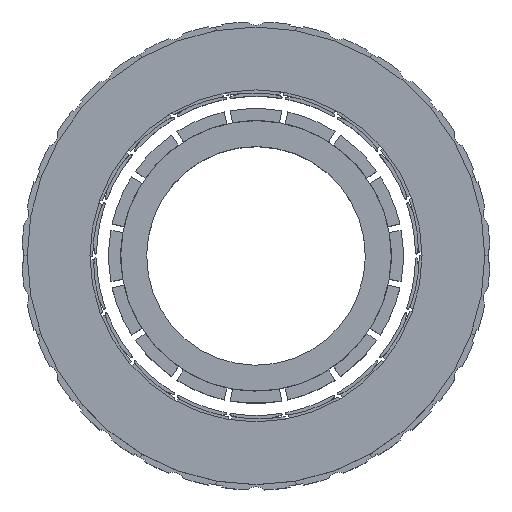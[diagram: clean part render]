
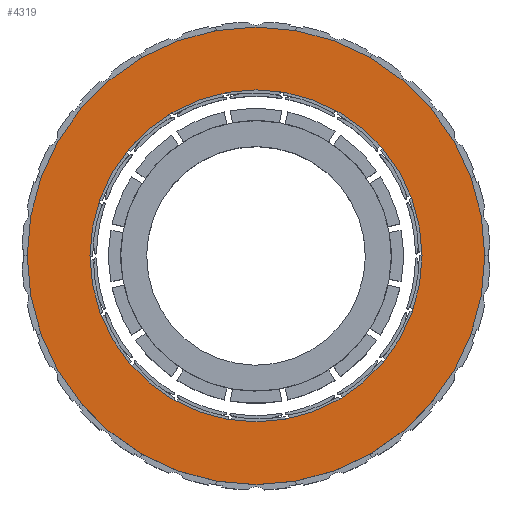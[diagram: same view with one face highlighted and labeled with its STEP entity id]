
A CAD part, top view. The second image highlights one B-rep face of the part: STEP entity #4319.
In plain terms, the highlighted planar face has unit normal (0, 0, 1).
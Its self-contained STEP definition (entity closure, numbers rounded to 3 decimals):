
#54 = AXIS2_PLACEMENT_3D ( 'NONE', #1803, #4924, #1746 ) ;
#114 = CARTESIAN_POINT ( 'NONE',  ( 28.25, 0., 4.5 ) ) ;
#164 = CIRCLE ( 'NONE', #4288, 28.25 ) ;
#561 = EDGE_LOOP ( 'NONE', ( #1899, #5022 ) ) ;
#590 = PLANE ( 'NONE',  #4104 ) ;
#708 = EDGE_LOOP ( 'NONE', ( #1215, #3797 ) ) ;
#1128 = VERTEX_POINT ( 'NONE', #114 ) ;
#1200 = AXIS2_PLACEMENT_3D ( 'NONE', #3571, #4357, #1564 ) ;
#1215 = ORIENTED_EDGE ( 'NONE', *, *, #2674, .T. ) ;
#1239 = CIRCLE ( 'NONE', #1200, 28.25 ) ;
#1257 = CARTESIAN_POINT ( 'NONE',  ( -20.5, 0., 4.5 ) ) ;
#1443 = DIRECTION ( 'NONE',  ( 0., 0., 1. ) ) ;
#1520 = VERTEX_POINT ( 'NONE', #2224 ) ;
#1564 = DIRECTION ( 'NONE',  ( 1., 0., 0. ) ) ;
#1726 = CARTESIAN_POINT ( 'NONE',  ( -28.25, 0., 4.5 ) ) ;
#1746 = DIRECTION ( 'NONE',  ( 1., 0., 0. ) ) ;
#1780 = EDGE_CURVE ( 'NONE', #1901, #1520, #2698, .T. ) ;
#1803 = CARTESIAN_POINT ( 'NONE',  ( 0., 0., 4.5 ) ) ;
#1899 = ORIENTED_EDGE ( 'NONE', *, *, #1780, .F. ) ;
#1901 = VERTEX_POINT ( 'NONE', #1257 ) ;
#2224 = CARTESIAN_POINT ( 'NONE',  ( 20.5, 0., 4.5 ) ) ;
#2499 = VERTEX_POINT ( 'NONE', #1726 ) ;
#2596 = CIRCLE ( 'NONE', #54, 20.5 ) ;
#2653 = CARTESIAN_POINT ( 'NONE',  ( 0., 0., 4.5 ) ) ;
#2674 = EDGE_CURVE ( 'NONE', #2499, #1128, #164, .T. ) ;
#2698 = CIRCLE ( 'NONE', #3078, 20.5 ) ;
#2947 = CARTESIAN_POINT ( 'NONE',  ( 0., 0., 4.5 ) ) ;
#3078 = AXIS2_PLACEMENT_3D ( 'NONE', #2653, #1443, #4983 ) ;
#3396 = DIRECTION ( 'NONE',  ( 1., 0., 0. ) ) ;
#3412 = CARTESIAN_POINT ( 'NONE',  ( 0., 0., 4.5 ) ) ;
#3571 = CARTESIAN_POINT ( 'NONE',  ( 0., 0., 4.5 ) ) ;
#3766 = DIRECTION ( 'NONE',  ( 1., 0., 0. ) ) ;
#3797 = ORIENTED_EDGE ( 'NONE', *, *, #4951, .T. ) ;
#4104 = AXIS2_PLACEMENT_3D ( 'NONE', #2947, #4564, #3766 ) ;
#4172 = DIRECTION ( 'NONE',  ( 0., 0., 1. ) ) ;
#4288 = AXIS2_PLACEMENT_3D ( 'NONE', #3412, #4172, #3396 ) ;
#4319 = ADVANCED_FACE ( 'NONE', ( #4572, #4695 ), #590, .T. ) ;
#4357 = DIRECTION ( 'NONE',  ( 0., 0., 1. ) ) ;
#4378 = EDGE_CURVE ( 'NONE', #1520, #1901, #2596, .T. ) ;
#4564 = DIRECTION ( 'NONE',  ( 0., 0., 1. ) ) ;
#4572 = FACE_OUTER_BOUND ( 'NONE', #708, .T. ) ;
#4695 = FACE_BOUND ( 'NONE', #561, .T. ) ;
#4924 = DIRECTION ( 'NONE',  ( 0., 0., 1. ) ) ;
#4951 = EDGE_CURVE ( 'NONE', #1128, #2499, #1239, .T. ) ;
#4983 = DIRECTION ( 'NONE',  ( 1., 0., 0. ) ) ;
#5022 = ORIENTED_EDGE ( 'NONE', *, *, #4378, .F. ) ;
